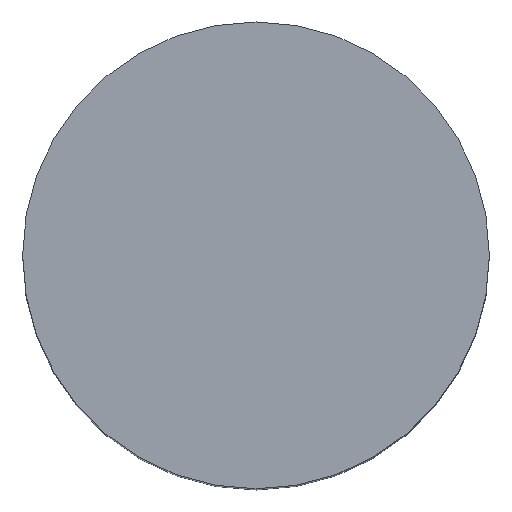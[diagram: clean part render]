
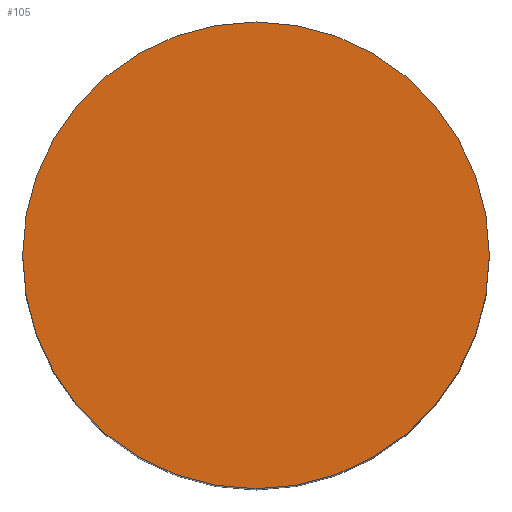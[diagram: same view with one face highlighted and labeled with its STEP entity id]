
A CAD part, top view. The second image highlights one B-rep face of the part: STEP entity #105.
In plain terms, the highlighted planar face has unit normal (0, 0, 1).
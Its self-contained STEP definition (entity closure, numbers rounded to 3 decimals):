
#21 = EDGE_CURVE('',#22,#22,#24,.T.);
#22 = VERTEX_POINT('',#23);
#23 = CARTESIAN_POINT('',(-431.,-166.913,23.5));
#24 = SURFACE_CURVE('',#25,(#30,#42),.PCURVE_S1.);
#25 = CIRCLE('',#26,7.);
#26 = AXIS2_PLACEMENT_3D('',#27,#28,#29);
#27 = CARTESIAN_POINT('',(-438.,-166.913,23.5));
#28 = DIRECTION('',(0.,0.,1.));
#29 = DIRECTION('',(1.,0.,-0.));
#30 = PCURVE('',#31,#36);
#31 = CYLINDRICAL_SURFACE('',#32,7.);
#32 = AXIS2_PLACEMENT_3D('',#33,#34,#35);
#33 = CARTESIAN_POINT('',(-438.,-166.913,2.5));
#34 = DIRECTION('',(0.,0.,1.));
#35 = DIRECTION('',(1.,0.,-0.));
#36 = DEFINITIONAL_REPRESENTATION('',(#37),#41);
#37 = LINE('',#38,#39);
#38 = CARTESIAN_POINT('',(0.,21.));
#39 = VECTOR('',#40,1.);
#40 = DIRECTION('',(1.,0.));
#41 = ( GEOMETRIC_REPRESENTATION_CONTEXT(2) 
PARAMETRIC_REPRESENTATION_CONTEXT() REPRESENTATION_CONTEXT('2D SPACE',''
  ) );
#42 = PCURVE('',#43,#48);
#43 = PLANE('',#44);
#44 = AXIS2_PLACEMENT_3D('',#45,#46,#47);
#45 = CARTESIAN_POINT('',(-438.,-166.913,23.5));
#46 = DIRECTION('',(0.,0.,1.));
#47 = DIRECTION('',(1.,0.,-0.));
#48 = DEFINITIONAL_REPRESENTATION('',(#49),#53);
#49 = CIRCLE('',#50,7.);
#50 = AXIS2_PLACEMENT_2D('',#51,#52);
#51 = CARTESIAN_POINT('',(0.,0.));
#52 = DIRECTION('',(1.,0.));
#53 = ( GEOMETRIC_REPRESENTATION_CONTEXT(2) 
PARAMETRIC_REPRESENTATION_CONTEXT() REPRESENTATION_CONTEXT('2D SPACE',''
  ) );
#105 = ADVANCED_FACE('',(#106),#43,.T.);
#106 = FACE_BOUND('',#107,.T.);
#107 = EDGE_LOOP('',(#108));
#108 = ORIENTED_EDGE('',*,*,#21,.T.);
